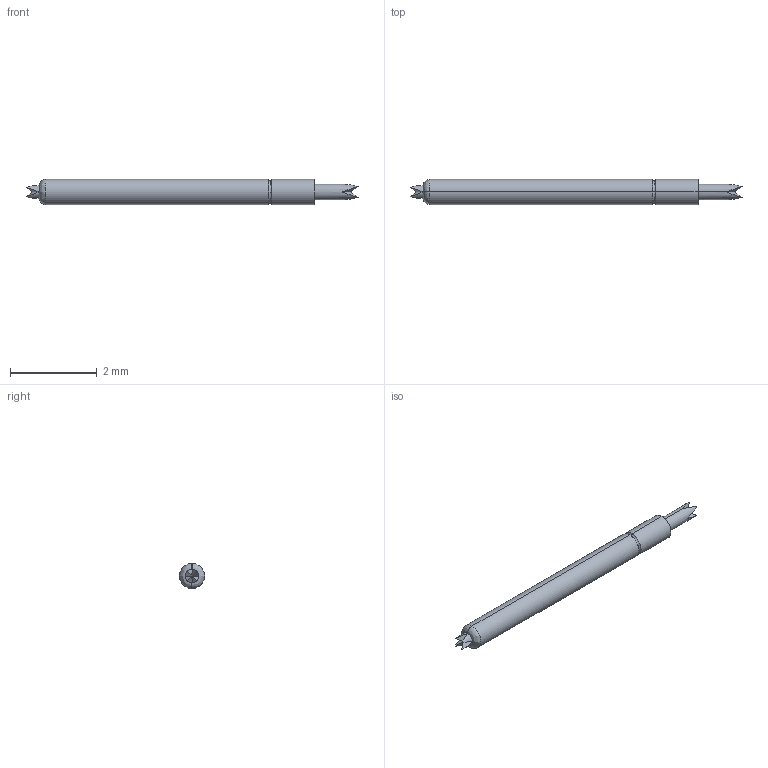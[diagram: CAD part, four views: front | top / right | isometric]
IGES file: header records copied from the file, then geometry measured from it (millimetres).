
Start section: SolidWorks IGES file using analytic representation for surfaces
Global section: file name: Z:\probe solid model mockups\Solidworks models\IGES Files\CSP8-25 IGES files\CSP8-25LL Full.IGS; native system: SolidWorks 2006 by SolidWorks Corporation; preprocessor: SolidWorks 2006 by SolidWorks Corporation; author: tsakatani; date: 080108.153823; units: inch
Bounding box: 7.67 x 0.58 x 0.58 mm (x, y, z)
Surface area: 13.5 mm2 (no closed solid volume)
Topology: 0 solids, 0 shells, 38 faces, 210 edges, 210 vertices
Faces by surface type: bspline 23, revolution 15
